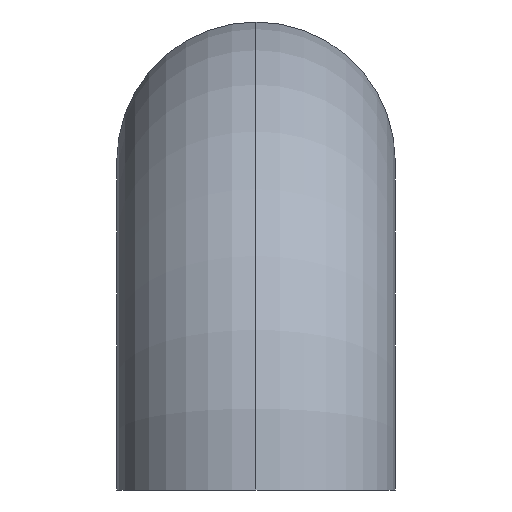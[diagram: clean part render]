
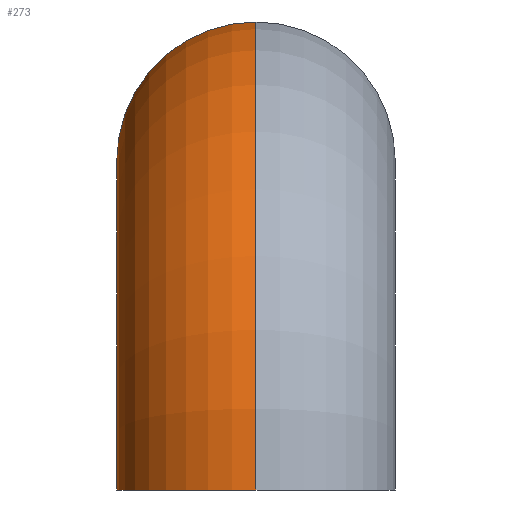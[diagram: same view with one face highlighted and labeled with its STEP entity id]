
A CAD part, left-side view. The second image highlights one B-rep face of the part: STEP entity #273.
In plain terms, the highlighted toroidal (fillet/blend) face has major radius 57 mm and minor radius 24.15 mm.
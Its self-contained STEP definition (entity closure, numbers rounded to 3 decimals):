
#15 = DIRECTION ( 'NONE',  ( -1., 0., 0. ) ) ;
#16 = CIRCLE ( 'NONE', #200, 24.15 ) ;
#19 = DIRECTION ( 'NONE',  ( 0., 0., 1. ) ) ;
#24 = CIRCLE ( 'NONE', #103, 24.15 ) ;
#31 = ORIENTED_EDGE ( 'NONE', *, *, #88, .T. ) ;
#33 = TOROIDAL_SURFACE ( 'NONE', #230, 57., 24.15 ) ;
#41 = VERTEX_POINT ( 'NONE', #170 ) ;
#45 = CARTESIAN_POINT ( 'NONE',  ( 4987.15, 3775., 6218.85 ) ) ;
#47 = CARTESIAN_POINT ( 'NONE',  ( 5020., 3775., 6275.85 ) ) ;
#51 = CARTESIAN_POINT ( 'NONE',  ( 5020., 3775., 6251.7 ) ) ;
#53 = CARTESIAN_POINT ( 'NONE',  ( 5020., 3775., 6300. ) ) ;
#54 = EDGE_CURVE ( 'NONE', #80, #330, #72, .T. ) ;
#63 = CARTESIAN_POINT ( 'NONE',  ( 5020., 3775., 6218.85 ) ) ;
#67 = CARTESIAN_POINT ( 'NONE',  ( 4938.85, 3775., 6218.85 ) ) ;
#72 = CIRCLE ( 'NONE', #238, 81.15 ) ;
#78 = CARTESIAN_POINT ( 'NONE',  ( 5020., 3775., 6218.85 ) ) ;
#80 = VERTEX_POINT ( 'NONE', #67 ) ;
#88 = EDGE_CURVE ( 'NONE', #330, #41, #16, .T. ) ;
#90 = ORIENTED_EDGE ( 'NONE', *, *, #295, .F. ) ;
#92 = CIRCLE ( 'NONE', #129, 32.85 ) ;
#99 = DIRECTION ( 'NONE',  ( 0., -1., 0. ) ) ;
#100 = DIRECTION ( 'NONE',  ( 0., -1., 0. ) ) ;
#103 = AXIS2_PLACEMENT_3D ( 'NONE', #47, #284, #100 ) ;
#122 = CIRCLE ( 'NONE', #289, 24.15 ) ;
#129 = AXIS2_PLACEMENT_3D ( 'NONE', #78, #237, #244 ) ;
#140 = EDGE_CURVE ( 'NONE', #41, #277, #24, .T. ) ;
#142 = DIRECTION ( 'NONE',  ( 0., 1., 0. ) ) ;
#159 = CARTESIAN_POINT ( 'NONE',  ( 4963., 3775., 6218.85 ) ) ;
#170 = CARTESIAN_POINT ( 'NONE',  ( 5020., 3799.15, 6275.85 ) ) ;
#186 = DIRECTION ( 'NONE',  ( 0., 0., -1. ) ) ;
#198 = EDGE_LOOP ( 'NONE', ( #90, #199, #31, #240, #349 ) ) ;
#199 = ORIENTED_EDGE ( 'NONE', *, *, #54, .T. ) ;
#200 = AXIS2_PLACEMENT_3D ( 'NONE', #300, #15, #99 ) ;
#217 = VERTEX_POINT ( 'NONE', #45 ) ;
#228 = DIRECTION ( 'NONE',  ( 0., 0., 1. ) ) ;
#230 = AXIS2_PLACEMENT_3D ( 'NONE', #269, #290, #19 ) ;
#237 = DIRECTION ( 'NONE',  ( 0., 1., 0. ) ) ;
#238 = AXIS2_PLACEMENT_3D ( 'NONE', #63, #142, #228 ) ;
#240 = ORIENTED_EDGE ( 'NONE', *, *, #140, .T. ) ;
#244 = DIRECTION ( 'NONE',  ( 0., 0., 1. ) ) ;
#263 = DIRECTION ( 'NONE',  ( 0., -1., 0. ) ) ;
#269 = CARTESIAN_POINT ( 'NONE',  ( 5020., 3775., 6218.85 ) ) ;
#273 = ADVANCED_FACE ( 'NONE', ( #293 ), #33, .T. ) ;
#277 = VERTEX_POINT ( 'NONE', #51 ) ;
#284 = DIRECTION ( 'NONE',  ( -1., 0., 0. ) ) ;
#289 = AXIS2_PLACEMENT_3D ( 'NONE', #159, #186, #263 ) ;
#290 = DIRECTION ( 'NONE',  ( 0., 1., 0. ) ) ;
#293 = FACE_OUTER_BOUND ( 'NONE', #198, .T. ) ;
#295 = EDGE_CURVE ( 'NONE', #80, #217, #122, .T. ) ;
#300 = CARTESIAN_POINT ( 'NONE',  ( 5020., 3775., 6275.85 ) ) ;
#323 = EDGE_CURVE ( 'NONE', #217, #277, #92, .T. ) ;
#330 = VERTEX_POINT ( 'NONE', #53 ) ;
#349 = ORIENTED_EDGE ( 'NONE', *, *, #323, .F. ) ;
